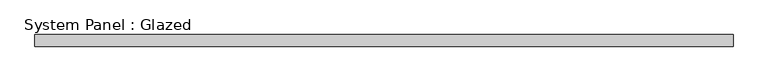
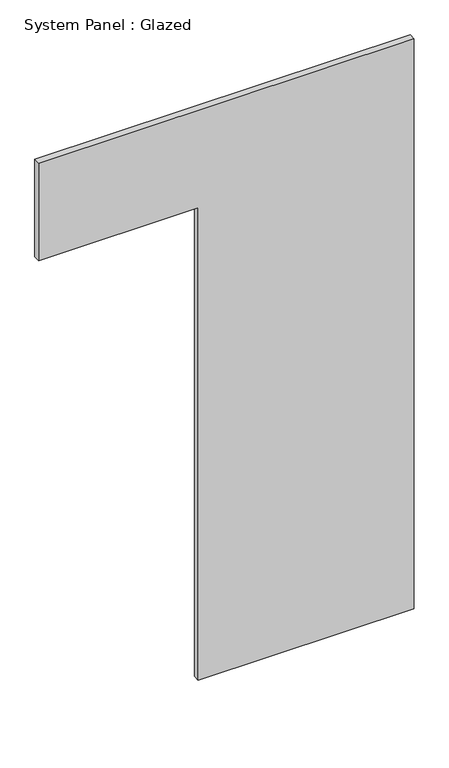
"""IFC4 building model written with IfcOpenShell, lengths in millimetres: plate geometry, System Panel : Glazed."""

from ifc_helpers import new_model, si_unit, frame, origin, place, context, project, spatial, polyline, outline, extrude, source, transform, mapped, element, save


def system_panel_glazed_5b22529f(model_context):
    return source(origin(), model_context, "Body", "SweptSolid", [
        extrude(outline(polyline([(0.0, -108.8950495), (0.0, 725.0), (2325.0, 725.0), (2325.0, -725.0), (1927.153105, -725.0), (1927.153105, -108.8950495), (0.0, -108.8950495)])), frame((0.0, 24.5, 0.0), z_axis=(0.0, 1.0, 0.0), x_axis=(0.0, 0.0, 1.0)), (0.0, 0.0, 1.0), 25.0),
    ])


if __name__ == "__main__":
    model = new_model("IFC4")
    model_context = context("Model", 3, world=origin())
    ifc_project = project(units=[si_unit("LENGTHUNIT", "METRE", prefix="MILLI")], contexts=[model_context])
    site = spatial("IfcSite", under=ifc_project)
    building = spatial("IfcBuilding", under=site)
    placement = place(None, origin())
    system_panel_glazed_shape = system_panel_glazed_5b22529f(model_context)
    element("IfcPlate", 1, ObjectType="System Panel : Glazed", at=placement, inside=building, context=model_context, shape_type="MappedRepresentation", body=[
        mapped(system_panel_glazed_shape, transform((0.0, 0.0, 0.0), x_axis=(1.0, 0.0, 0.0), y_axis=(0.0, 1.0, 0.0), z_axis=(0.0, 0.0, 1.0))),
    ])
    save(model, "model.ifc")
